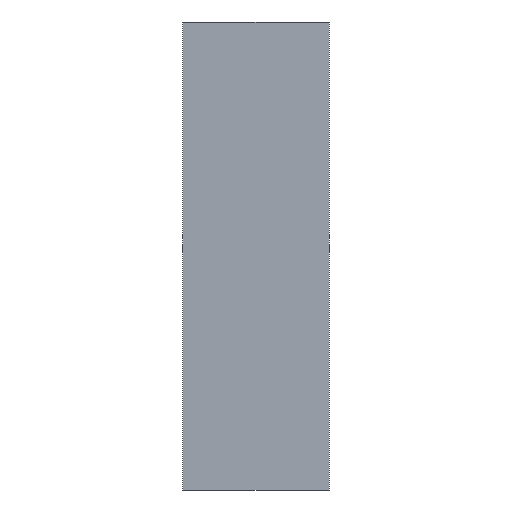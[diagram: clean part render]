
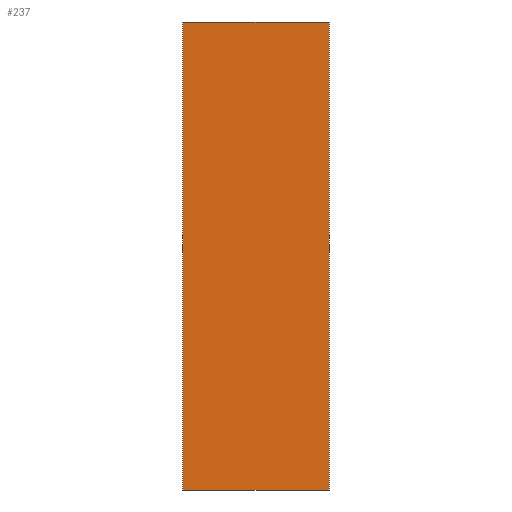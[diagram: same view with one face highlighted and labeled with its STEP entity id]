
A CAD part, front view. The second image highlights one B-rep face of the part: STEP entity #237.
In plain terms, the highlighted planar face has unit normal (0, -1, 0).
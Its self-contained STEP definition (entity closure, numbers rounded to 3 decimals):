
#21 = EDGE_CURVE('',#22,#24,#26,.T.);
#22 = VERTEX_POINT('',#23);
#23 = CARTESIAN_POINT('',(580.,-180.,-230.));
#24 = VERTEX_POINT('',#25);
#25 = CARTESIAN_POINT('',(580.,-180.,-134.));
#26 = SURFACE_CURVE('',#27,(#31,#43),.PCURVE_S1.);
#27 = LINE('',#28,#29);
#28 = CARTESIAN_POINT('',(580.,-180.,-230.));
#29 = VECTOR('',#30,1.);
#30 = DIRECTION('',(0.,0.,1.));
#31 = PCURVE('',#32,#37);
#32 = PLANE('',#33);
#33 = AXIS2_PLACEMENT_3D('',#34,#35,#36);
#34 = CARTESIAN_POINT('',(580.,-180.,-230.));
#35 = DIRECTION('',(1.,0.,0.));
#36 = DIRECTION('',(0.,0.,1.));
#37 = DEFINITIONAL_REPRESENTATION('',(#38),#42);
#38 = LINE('',#39,#40);
#39 = CARTESIAN_POINT('',(0.,0.));
#40 = VECTOR('',#41,1.);
#41 = DIRECTION('',(1.,0.));
#42 = ( GEOMETRIC_REPRESENTATION_CONTEXT(2) 
PARAMETRIC_REPRESENTATION_CONTEXT() REPRESENTATION_CONTEXT('2D SPACE',''
  ) );
#43 = PCURVE('',#44,#49);
#44 = PLANE('',#45);
#45 = AXIS2_PLACEMENT_3D('',#46,#47,#48);
#46 = CARTESIAN_POINT('',(580.,-180.,-230.));
#47 = DIRECTION('',(0.,1.,0.));
#48 = DIRECTION('',(0.,0.,1.));
#49 = DEFINITIONAL_REPRESENTATION('',(#50),#54);
#50 = LINE('',#51,#52);
#51 = CARTESIAN_POINT('',(0.,0.));
#52 = VECTOR('',#53,1.);
#53 = DIRECTION('',(1.,0.));
#54 = ( GEOMETRIC_REPRESENTATION_CONTEXT(2) 
PARAMETRIC_REPRESENTATION_CONTEXT() REPRESENTATION_CONTEXT('2D SPACE',''
  ) );
#72 = PLANE('',#73);
#73 = AXIS2_PLACEMENT_3D('',#74,#75,#76);
#74 = CARTESIAN_POINT('',(580.,-180.,-230.));
#75 = DIRECTION('',(0.,0.,1.));
#76 = DIRECTION('',(1.,0.,0.));
#126 = PLANE('',#127);
#127 = AXIS2_PLACEMENT_3D('',#128,#129,#130);
#128 = CARTESIAN_POINT('',(580.,-180.,-134.));
#129 = DIRECTION('',(0.,0.,1.));
#130 = DIRECTION('',(1.,0.,0.));
#141 = EDGE_CURVE('',#142,#144,#146,.T.);
#142 = VERTEX_POINT('',#143);
#143 = CARTESIAN_POINT('',(610.,-180.,-230.));
#144 = VERTEX_POINT('',#145);
#145 = CARTESIAN_POINT('',(610.,-180.,-134.));
#146 = SURFACE_CURVE('',#147,(#151,#163),.PCURVE_S1.);
#147 = LINE('',#148,#149);
#148 = CARTESIAN_POINT('',(610.,-180.,-230.));
#149 = VECTOR('',#150,1.);
#150 = DIRECTION('',(0.,0.,1.));
#151 = PCURVE('',#152,#157);
#152 = PLANE('',#153);
#153 = AXIS2_PLACEMENT_3D('',#154,#155,#156);
#154 = CARTESIAN_POINT('',(610.,-180.,-230.));
#155 = DIRECTION('',(1.,0.,0.));
#156 = DIRECTION('',(0.,0.,1.));
#157 = DEFINITIONAL_REPRESENTATION('',(#158),#162);
#158 = LINE('',#159,#160);
#159 = CARTESIAN_POINT('',(0.,0.));
#160 = VECTOR('',#161,1.);
#161 = DIRECTION('',(1.,0.));
#162 = ( GEOMETRIC_REPRESENTATION_CONTEXT(2) 
PARAMETRIC_REPRESENTATION_CONTEXT() REPRESENTATION_CONTEXT('2D SPACE',''
  ) );
#163 = PCURVE('',#44,#164);
#164 = DEFINITIONAL_REPRESENTATION('',(#165),#169);
#165 = LINE('',#166,#167);
#166 = CARTESIAN_POINT('',(0.,30.));
#167 = VECTOR('',#168,1.);
#168 = DIRECTION('',(1.,0.));
#169 = ( GEOMETRIC_REPRESENTATION_CONTEXT(2) 
PARAMETRIC_REPRESENTATION_CONTEXT() REPRESENTATION_CONTEXT('2D SPACE',''
  ) );
#237 = ADVANCED_FACE('',(#238),#44,.F.);
#238 = FACE_BOUND('',#239,.F.);
#239 = EDGE_LOOP('',(#240,#261,#262,#283));
#240 = ORIENTED_EDGE('',*,*,#241,.F.);
#241 = EDGE_CURVE('',#22,#142,#242,.T.);
#242 = SURFACE_CURVE('',#243,(#247,#254),.PCURVE_S1.);
#243 = LINE('',#244,#245);
#244 = CARTESIAN_POINT('',(580.,-180.,-230.));
#245 = VECTOR('',#246,1.);
#246 = DIRECTION('',(1.,0.,0.));
#247 = PCURVE('',#44,#248);
#248 = DEFINITIONAL_REPRESENTATION('',(#249),#253);
#249 = LINE('',#250,#251);
#250 = CARTESIAN_POINT('',(0.,0.));
#251 = VECTOR('',#252,1.);
#252 = DIRECTION('',(0.,1.));
#253 = ( GEOMETRIC_REPRESENTATION_CONTEXT(2) 
PARAMETRIC_REPRESENTATION_CONTEXT() REPRESENTATION_CONTEXT('2D SPACE',''
  ) );
#254 = PCURVE('',#72,#255);
#255 = DEFINITIONAL_REPRESENTATION('',(#256),#260);
#256 = LINE('',#257,#258);
#257 = CARTESIAN_POINT('',(0.,0.));
#258 = VECTOR('',#259,1.);
#259 = DIRECTION('',(1.,0.));
#260 = ( GEOMETRIC_REPRESENTATION_CONTEXT(2) 
PARAMETRIC_REPRESENTATION_CONTEXT() REPRESENTATION_CONTEXT('2D SPACE',''
  ) );
#261 = ORIENTED_EDGE('',*,*,#21,.T.);
#262 = ORIENTED_EDGE('',*,*,#263,.T.);
#263 = EDGE_CURVE('',#24,#144,#264,.T.);
#264 = SURFACE_CURVE('',#265,(#269,#276),.PCURVE_S1.);
#265 = LINE('',#266,#267);
#266 = CARTESIAN_POINT('',(580.,-180.,-134.));
#267 = VECTOR('',#268,1.);
#268 = DIRECTION('',(1.,0.,0.));
#269 = PCURVE('',#44,#270);
#270 = DEFINITIONAL_REPRESENTATION('',(#271),#275);
#271 = LINE('',#272,#273);
#272 = CARTESIAN_POINT('',(96.,0.));
#273 = VECTOR('',#274,1.);
#274 = DIRECTION('',(0.,1.));
#275 = ( GEOMETRIC_REPRESENTATION_CONTEXT(2) 
PARAMETRIC_REPRESENTATION_CONTEXT() REPRESENTATION_CONTEXT('2D SPACE',''
  ) );
#276 = PCURVE('',#126,#277);
#277 = DEFINITIONAL_REPRESENTATION('',(#278),#282);
#278 = LINE('',#279,#280);
#279 = CARTESIAN_POINT('',(0.,0.));
#280 = VECTOR('',#281,1.);
#281 = DIRECTION('',(1.,0.));
#282 = ( GEOMETRIC_REPRESENTATION_CONTEXT(2) 
PARAMETRIC_REPRESENTATION_CONTEXT() REPRESENTATION_CONTEXT('2D SPACE',''
  ) );
#283 = ORIENTED_EDGE('',*,*,#141,.F.);
